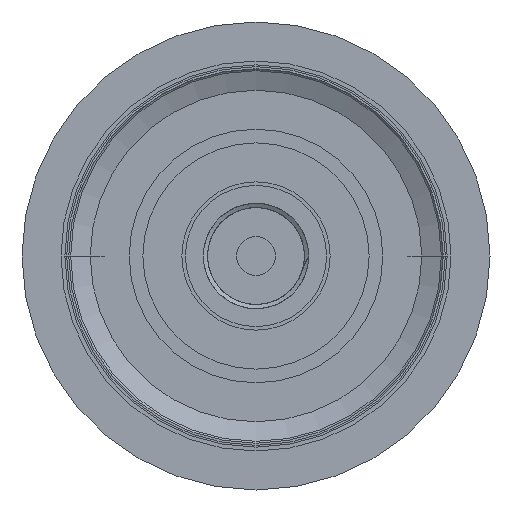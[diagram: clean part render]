
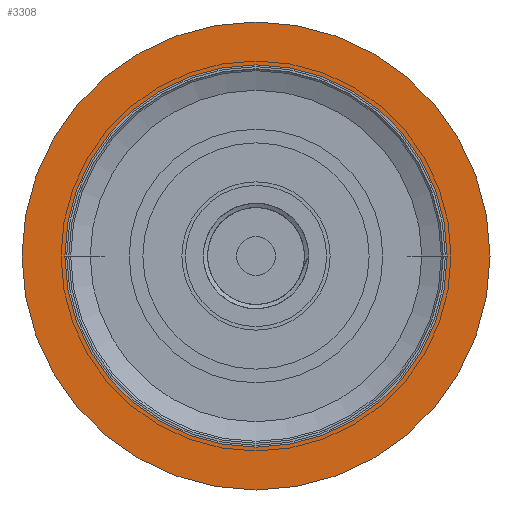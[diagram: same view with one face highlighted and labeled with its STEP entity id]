
A CAD part, front view. The second image highlights one B-rep face of the part: STEP entity #3308.
In plain terms, the highlighted planar face has unit normal (0, -1, 0).
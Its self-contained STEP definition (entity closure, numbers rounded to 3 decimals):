
#41 = AXIS2_PLACEMENT_3D ( 'NONE', #1748, #3551, #828 ) ;
#325 = DIRECTION ( 'NONE',  ( 0., -1., 0. ) ) ;
#428 = AXIS2_PLACEMENT_3D ( 'NONE', #2415, #325, #607 ) ;
#607 = DIRECTION ( 'NONE',  ( 0., 0., -1. ) ) ;
#656 = ORIENTED_EDGE ( 'NONE', *, *, #1861, .T. ) ;
#828 = DIRECTION ( 'NONE',  ( 0., 0., -1. ) ) ;
#889 = DIRECTION ( 'NONE',  ( 0., 0., -1. ) ) ;
#945 = DIRECTION ( 'NONE',  ( 0., -1., 0. ) ) ;
#1127 = PLANE ( 'NONE',  #41 ) ;
#1328 = CIRCLE ( 'NONE', #428, 60. ) ;
#1748 = CARTESIAN_POINT ( 'NONE',  ( 0., -1., 0. ) ) ;
#1861 = EDGE_CURVE ( 'NONE', #3497, #2308, #2545, .T. ) ;
#1902 = EDGE_CURVE ( 'NONE', #2308, #3497, #1328, .T. ) ;
#2308 = VERTEX_POINT ( 'NONE', #3811 ) ;
#2415 = CARTESIAN_POINT ( 'NONE',  ( 0., -1., 0. ) ) ;
#2447 = CARTESIAN_POINT ( 'NONE',  ( 0., -1., -60. ) ) ;
#2545 = CIRCLE ( 'NONE', #3029, 60. ) ;
#2916 = EDGE_LOOP ( 'NONE', ( #3419, #656 ) ) ;
#3029 = AXIS2_PLACEMENT_3D ( 'NONE', #3611, #945, #889 ) ;
#3308 = ADVANCED_FACE ( 'NONE', ( #3530 ), #1127, .T. ) ;
#3419 = ORIENTED_EDGE ( 'NONE', *, *, #1902, .T. ) ;
#3497 = VERTEX_POINT ( 'NONE', #2447 ) ;
#3530 = FACE_OUTER_BOUND ( 'NONE', #2916, .T. ) ;
#3551 = DIRECTION ( 'NONE',  ( 0., -1., 0. ) ) ;
#3611 = CARTESIAN_POINT ( 'NONE',  ( 0., -1., 0. ) ) ;
#3811 = CARTESIAN_POINT ( 'NONE',  ( 0., -1., 60. ) ) ;
